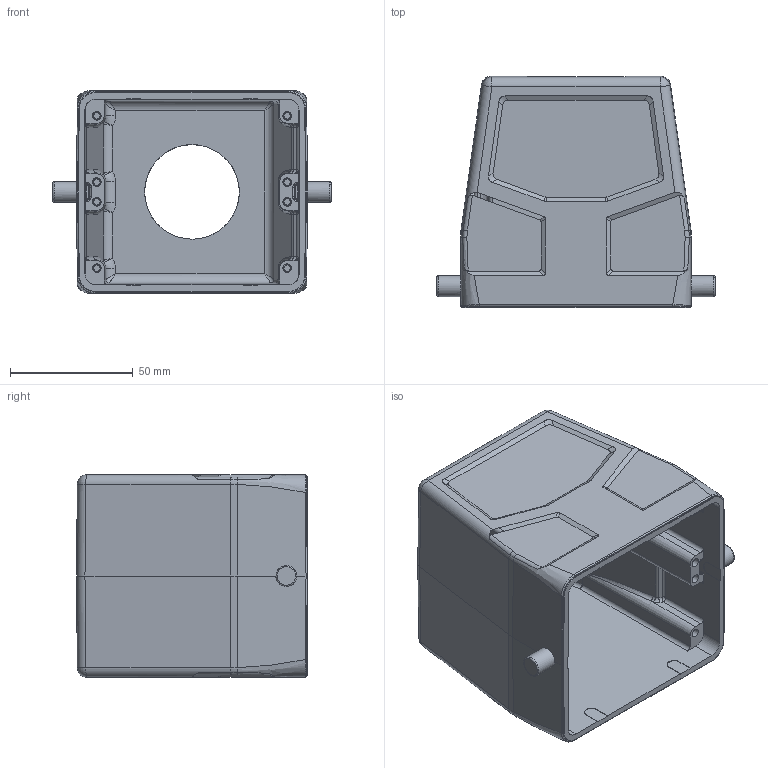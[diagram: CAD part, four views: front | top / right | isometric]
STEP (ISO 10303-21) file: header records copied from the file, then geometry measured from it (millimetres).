
FILE_DESCRIPTION (( 'STEP AP203' ), '1' );
FILE_NAME ('H32B-TG-RO-M40.STEP', '2023-06-13T07:34:03', ( '' ), ( '' ), 'SwSTEP 2.0', 'SolidWorks 2016', '' );
FILE_SCHEMA (( 'CONFIG_CONTROL_DESIGN' ));
Length unit declared in the file: millimetre
Products named in the file (1): H32B-TG-RO-M40
Bounding box: 113.2 x 94 x 82.5 mm (x, y, z)
Volume: 159559.3 mm3; surface area: 70553.8 mm2
Topology: 1 solids, 1 shells, 346 faces, 901 edges, 560 vertices
Faces by surface type: cylinder 130, plane 125, bspline 55, cone 13, torus 13, sphere 10
Full cylindrical faces by diameter (mm): 2.7 x8, 3.5 x8, 8.5 x2, 38.5 x1
Entity records: 17634 total; most frequent: CARTESIAN_POINT 10407, ORIENTED_EDGE 1716, DIRECTION 1074, EDGE_CURVE 858, VERTEX_POINT 554, EDGE_LOOP 388, FACE_OUTER_BOUND 367, B_SPLINE_CURVE_WITH_KNOTS 365
